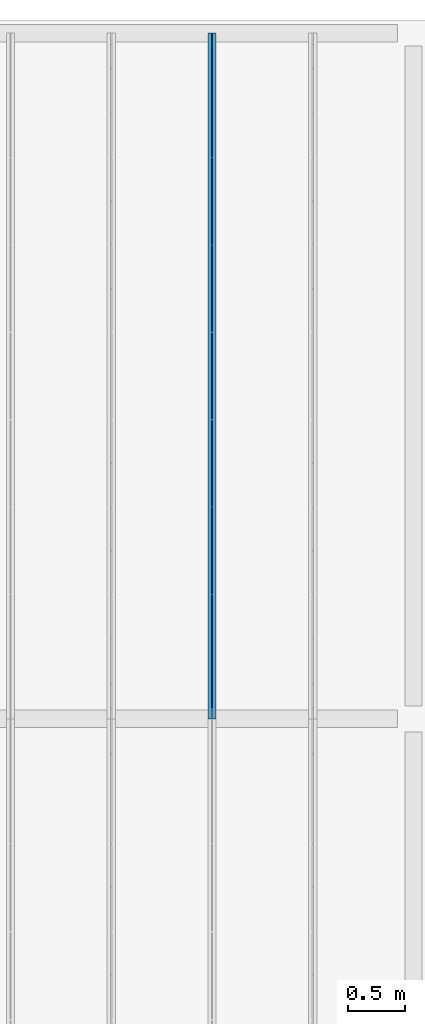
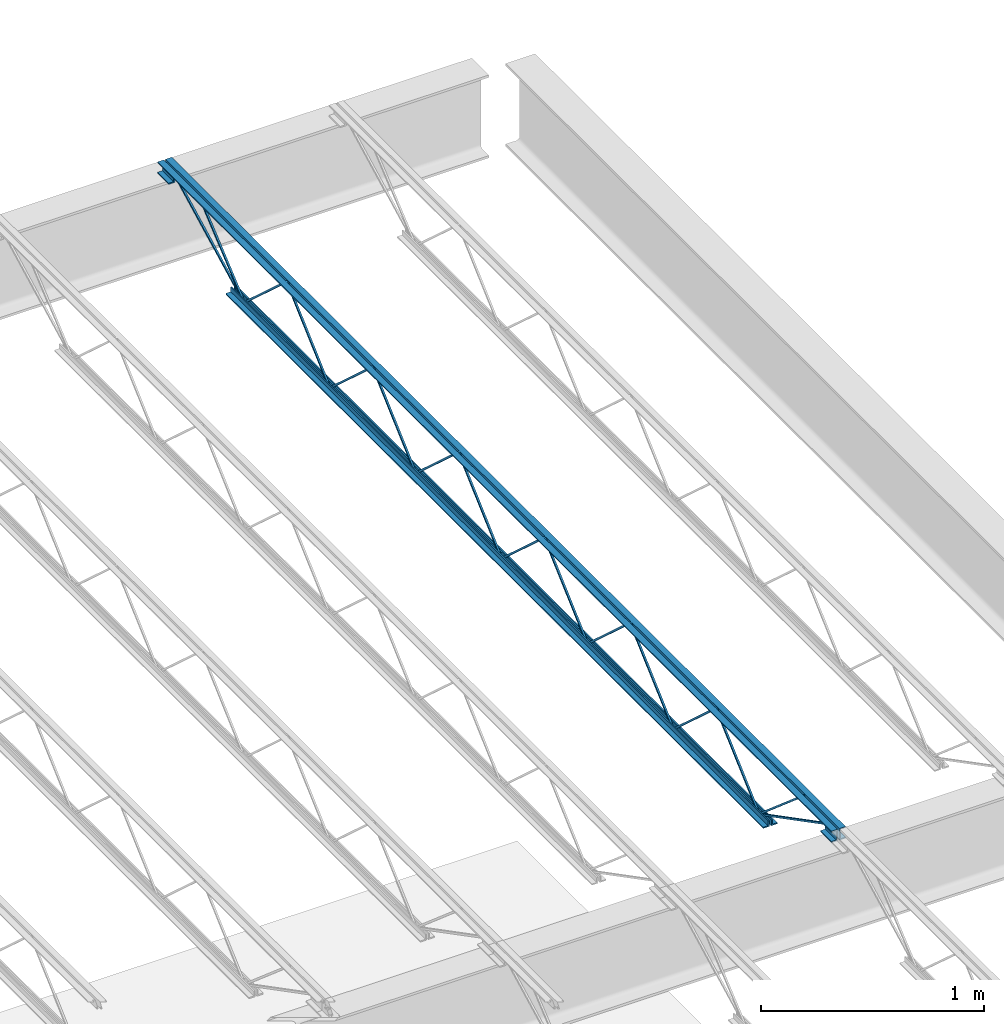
# One storey, part 54 of 75: 1 beam.
"""IFC2X3 building model written with IfcOpenShell, lengths in metres."""

from ifc_helpers import new_model, entity, si_unit, converted_unit, frame, origin, place, context, project, spatial, face_set, surface_model, element, save


model = new_model("IFC2X3")

# Units and contexts
model_context = context("Model", 3, precision=1e-09, world=origin())
plan_context = context("Plan", 3, precision=1e-09, world=origin())
ifc_project = project(units=[si_unit("LENGTHUNIT", "METRE"), si_unit("AREAUNIT", "SQUARE_METRE"), si_unit("VOLUMEUNIT", "CUBIC_METRE"), converted_unit("PLANEANGLEUNIT", "DEGREE", entity("IfcRatioMeasure", 0.01745329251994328), si_unit("PLANEANGLEUNIT", "RADIAN"), dimensions=[0, 0, 0, 0, 0, 0, 0]), si_unit("TIMEUNIT", "SECOND")], contexts=[model_context, plan_context])

# Site, building, storey
site_placement = place(None, origin())
site = spatial("IfcSite", under=ifc_project, at=site_placement, Name="Default", CompositionType="ELEMENT")
building_placement = place(site_placement, origin())
building = spatial("IfcBuilding", under=site, at=building_placement, CompositionType="ELEMENT")
storey_placement = place(building_placement, origin())
storey = spatial("IfcBuildingStorey", under=building, at=storey_placement, Name="First Floor", CompositionType="ELEMENT", Elevation=-3.531500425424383e-13)

# Beam
beam_placement = place(storey_placement, frame((-28.25424999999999, 50.09000000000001, 4.112000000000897), z_axis=(0.0, 0.0, 1.0), x_axis=(-1.0, 0.0, 0.0)))
element("IfcBeam", 1, at=beam_placement, inside=storey, Name="M_K-Series Bar Joist-Rod Web:14K1:14K1", ObjectType="M_K-Series Bar Joist-Rod Web:14K1", context=model_context, shape_type="SurfaceModel", body=[
    surface_model("IfcFaceBasedSurfaceModel", [(-0.03200000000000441, -2.254000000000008, 0.01110000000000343), (-0.04150000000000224, -2.254000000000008, 0.01110000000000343), (-0.04150000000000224, -2.254000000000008, 0.001600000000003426), (-0.03200000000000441, -2.254000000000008, 0.001600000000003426), (-0.04150000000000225, -2.252655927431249, 0.01110000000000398), (-0.03200000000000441, -2.252655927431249, 0.01110000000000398), (-0.04150000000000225, -2.248994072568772, 0.001600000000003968), (-0.04150000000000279, -1.869844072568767, 0.3449000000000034), (-0.0415000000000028, -1.86715592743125, 0.3449000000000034), (-0.04149999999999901, -1.48800592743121, 0.001600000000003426), (-0.04149999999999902, -1.483000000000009, 0.001600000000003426), (-0.04150000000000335, -1.483000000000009, 0.01110000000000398), (-0.04150000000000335, -1.484344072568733, 0.01110000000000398), (-0.04150000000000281, -1.863494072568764, 0.3544000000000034), (-0.04150000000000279, -1.873505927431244, 0.3544000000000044), (-0.03200000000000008, -2.248994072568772, 0.001600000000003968), (-0.03200000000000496, -1.869844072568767, 0.3449000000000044), (-0.03200000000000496, -1.86715592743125, 0.3449000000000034), (-0.0320000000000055, -1.48800592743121, 0.001600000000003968), (-0.03200000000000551, -1.483000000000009, 0.001600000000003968), (-0.03200000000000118, -1.483000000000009, 0.01110000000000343), (-0.03200000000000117, -1.484344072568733, 0.01110000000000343), (-0.03200000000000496, -1.863494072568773, 0.3544000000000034), (-0.03200000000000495, -1.873505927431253, 0.3544000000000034), (-0.0320000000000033, -3.025000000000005, 0.01110000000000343), (-0.04150000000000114, -3.025000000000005, 0.01110000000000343), (-0.04150000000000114, -3.025000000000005, 0.001600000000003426), (-0.0320000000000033, -3.025000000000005, 0.001600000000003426), (-0.04150000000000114, -3.023655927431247, 0.01110000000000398), (-0.0320000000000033, -3.023655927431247, 0.01110000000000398), (-0.04150000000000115, -3.01999407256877, 0.001600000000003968), (-0.04150000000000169, -2.640844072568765, 0.3449000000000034), (-0.04150000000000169, -2.638155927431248, 0.3449000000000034), (-0.04150000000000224, -2.259005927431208, 0.001600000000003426), (-0.04150000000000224, -2.254000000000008, 0.01110000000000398), (-0.04150000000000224, -2.255344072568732, 0.01110000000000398), (-0.0415000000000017, -2.634494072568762, 0.3544000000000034), (-0.04150000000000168, -2.644505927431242, 0.3544000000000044), (-0.03199999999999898, -3.01999407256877, 0.001600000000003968), (-0.03200000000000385, -2.640844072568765, 0.3449000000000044), (-0.03200000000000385, -2.638155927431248, 0.3449000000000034), (-0.03200000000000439, -2.259005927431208, 0.001600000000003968), (-0.03200000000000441, -2.254000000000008, 0.001600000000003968), (-0.0320000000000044, -2.255344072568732, 0.01110000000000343), (-0.03200000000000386, -2.634494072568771, 0.3544000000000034), (-0.03200000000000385, -2.644505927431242, 0.3544000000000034), (-0.03200000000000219, -3.796000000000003, 0.01110000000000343), (-0.04150000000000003, -3.796000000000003, 0.01110000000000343), (-0.04150000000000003, -3.796000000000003, 0.001600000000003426), (-0.03200000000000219, -3.796000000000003, 0.001600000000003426), (-0.04150000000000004, -3.794655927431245, 0.01110000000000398), (-0.03200000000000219, -3.794655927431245, 0.01110000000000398), (-0.04150000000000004, -3.790994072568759, 0.001600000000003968), (-0.04150000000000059, -3.411844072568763, 0.3449000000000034), (-0.04150000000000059, -3.409155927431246, 0.3449000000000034), (-0.04150000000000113, -3.030005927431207, 0.001600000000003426), (-0.04150000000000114, -3.025000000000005, 0.01110000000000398), (-0.04150000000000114, -3.026344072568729, 0.01110000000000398), (-0.0415000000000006, -3.40549407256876, 0.3544000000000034), (-0.04150000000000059, -3.41550592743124, 0.3544000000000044), (-0.03199999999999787, -3.790994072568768, 0.001600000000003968), (-0.03200000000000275, -3.411844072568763, 0.3449000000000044), (-0.03200000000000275, -3.409155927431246, 0.3449000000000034), (-0.03200000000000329, -3.030005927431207, 0.001600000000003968), (-0.0320000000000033, -3.025000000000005, 0.001600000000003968), (-0.0320000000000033, -3.026344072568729, 0.01110000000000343), (-0.03200000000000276, -3.40549407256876, 0.3544000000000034), (-0.03200000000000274, -3.41550592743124, 0.3544000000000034), (-0.03200000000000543, -4.567000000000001, 0.01110000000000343), (-0.04150000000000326, -4.567000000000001, 0.01110000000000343), (-0.04150000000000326, -4.567000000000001, 0.001600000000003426), (-0.03200000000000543, -4.567000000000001, 0.001600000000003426), (-0.04150000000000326, -4.565655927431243, 0.01110000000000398), (-0.03200000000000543, -4.565655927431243, 0.01110000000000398), (-0.04150000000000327, -4.561994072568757, 0.001600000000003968), (-0.04149999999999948, -4.182844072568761, 0.3449000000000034), (-0.04149999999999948, -4.180155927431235, 0.3449000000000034), (-0.04150000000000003, -3.801005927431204, 0.001600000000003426), (-0.04150000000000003, -3.795999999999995, 0.001600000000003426), (-0.04150000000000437, -3.796000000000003, 0.01110000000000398), (-0.04150000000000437, -3.797344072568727, 0.01110000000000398), (-0.04150000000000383, -4.176494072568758, 0.3544000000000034), (-0.04150000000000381, -4.186505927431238, 0.3544000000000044), (-0.0320000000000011, -4.561994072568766, 0.001600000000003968), (-0.03200000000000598, -4.182844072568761, 0.3449000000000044), (-0.03200000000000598, -4.180155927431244, 0.3449000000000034), (-0.03200000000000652, -3.801005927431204, 0.001600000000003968), (-0.03200000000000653, -3.796000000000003, 0.001600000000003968), (-0.03200000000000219, -3.795999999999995, 0.01110000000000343), (-0.03200000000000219, -3.797344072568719, 0.01110000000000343), (-0.03200000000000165, -4.176494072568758, 0.3544000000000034), (-0.03200000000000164, -4.186505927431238, 0.3544000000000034), (-0.03200000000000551, -1.483000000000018, 0.01109999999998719), (-0.04150000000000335, -1.483000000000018, 0.01109999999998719), (-0.04150000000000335, -1.483000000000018, 0.001599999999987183), (-0.03200000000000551, -1.483000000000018, 0.001599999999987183), (-0.04149999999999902, -1.48165592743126, 0.01109999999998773), (-0.03200000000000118, -1.48165592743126, 0.01109999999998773), (-0.04150000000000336, -1.477994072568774, 0.001599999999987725), (-0.0415000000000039, -1.098844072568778, 0.3448999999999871), (-0.0415000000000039, -1.096155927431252, 0.3448999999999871), (-0.04150000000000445, -0.717005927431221, 0.001599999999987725), (-0.04150000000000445, -0.7120000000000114, 0.001599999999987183), (-0.04150000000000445, -0.7120000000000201, 0.01109999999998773), (-0.04150000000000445, -0.713344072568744, 0.01109999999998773), (-0.04150000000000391, -1.092494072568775, 0.3543999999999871), (-0.04150000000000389, -1.102505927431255, 0.3543999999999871), (-0.03200000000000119, -1.477994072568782, 0.001599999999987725), (-0.03200000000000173, -1.098844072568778, 0.3448999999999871), (-0.03200000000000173, -1.09615592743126, 0.3448999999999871), (-0.03200000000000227, -0.717005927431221, 0.001599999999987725), (-0.03200000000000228, -0.7120000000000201, 0.001599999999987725), (-0.03200000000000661, -0.7120000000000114, 0.01109999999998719), (-0.03200000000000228, -0.7133440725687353, 0.01109999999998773), (-0.03200000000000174, -1.092494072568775, 0.3543999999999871), (-0.03200000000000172, -1.102505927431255, 0.3543999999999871), (-0.03200000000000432, -5.33799999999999, 0.01110000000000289), (-0.04150000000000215, -5.33799999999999, 0.01110000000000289), (-0.04150000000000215, -5.33799999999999, 0.001600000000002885), (-0.03200000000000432, -5.33799999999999, 0.001600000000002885), (-0.04150000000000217, -5.336655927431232, 0.01110000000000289), (-0.03200000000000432, -5.336655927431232, 0.01110000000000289), (-0.04150000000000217, -5.332994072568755, 0.001600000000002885), (-0.04150000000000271, -4.95384407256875, 0.3449000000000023), (-0.04150000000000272, -4.951155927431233, 0.3449000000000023), (-0.04150000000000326, -4.572005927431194, 0.001600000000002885), (-0.04150000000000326, -4.566999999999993, 0.001600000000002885), (-0.04150000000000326, -4.566999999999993, 0.01110000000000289), (-0.04150000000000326, -4.568344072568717, 0.01110000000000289), (-0.04150000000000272, -4.947494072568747, 0.3544000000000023), (-0.04150000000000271, -4.957505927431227, 0.3544000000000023), (-0.03199999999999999, -5.332994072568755, 0.001600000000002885), (-0.03200000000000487, -4.95384407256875, 0.3449000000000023), (-0.03200000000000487, -4.951155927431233, 0.3449000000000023), (-0.03200000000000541, -4.572005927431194, 0.001600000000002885), (-0.03200000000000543, -4.566999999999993, 0.001600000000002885), (-0.03200000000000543, -4.566999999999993, 0.01110000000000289), (-0.03200000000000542, -4.568344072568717, 0.01110000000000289), (-0.03200000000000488, -4.947494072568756, 0.3544000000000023), (-0.03200000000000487, -4.957505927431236, 0.3544000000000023), (-0.04150000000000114, 0.0, 0.3559999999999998), (-0.07350000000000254, 0.0, 0.3559999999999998), (-0.07350000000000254, 0.0, 0.349499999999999), (-0.04799999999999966, 0.0, 0.349499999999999), (-0.04799999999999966, 0.0, 0.3239999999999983), (-0.04150000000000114, 0.0, 0.3239999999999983), (-0.0320000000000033, 0.0, 0.3559999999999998), (-0.0320000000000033, 0.0, 0.3239999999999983), (-0.02550000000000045, 0.0, 0.3239999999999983), (-0.02550000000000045, 0.0, 0.349499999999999), (0.0, 0.0, 0.349499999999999), (0.0, 0.0, 0.3559999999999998), (-0.04150000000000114, -6.049999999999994, 0.3559999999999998), (-0.07350000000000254, -6.049999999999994, 0.3559999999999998), (-0.07350000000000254, -6.049999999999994, 0.349499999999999), (-0.04799999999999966, -6.049999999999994, 0.349499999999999), (-0.04799999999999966, -6.049999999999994, 0.3239999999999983), (-0.04150000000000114, -6.049999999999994, 0.3239999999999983), (-0.0320000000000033, -6.049999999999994, 0.3559999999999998), (-0.0320000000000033, -6.049999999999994, 0.3239999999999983), (-0.02550000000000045, -6.049999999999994, 0.3239999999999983), (-0.02550000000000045, -6.049999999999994, 0.349499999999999), (0.0, -6.049999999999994, 0.349499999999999), (0.0, -6.049999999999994, 0.3559999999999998), (-0.03200000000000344, -5.950000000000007, 0.2924999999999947), (0.0, -5.950000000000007, 0.2924999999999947), (0.0, -5.950000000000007, 0.2989999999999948), (-0.02550000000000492, -5.950000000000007, 0.2989999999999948), (-0.02550000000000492, -5.950000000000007, 0.3239999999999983), (-0.03200000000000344, -5.950000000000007, 0.3239999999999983), (-0.07350000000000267, -5.950000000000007, 0.2924999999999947), (-0.04150000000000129, -5.950000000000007, 0.2924999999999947), (-0.04150000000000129, -5.950000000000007, 0.3239999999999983), (-0.04800000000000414, -5.950000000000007, 0.3239999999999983), (-0.04800000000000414, -5.950000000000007, 0.2989999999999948), (-0.07350000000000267, -5.950000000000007, 0.2989999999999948), (-0.0320000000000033, -6.049999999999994, 0.2924999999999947), (0.0, -6.049999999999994, 0.2924999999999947), (0.0, -6.049999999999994, 0.2989999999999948), (-0.02550000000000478, -6.049999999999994, 0.2989999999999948), (-0.02550000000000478, -6.049999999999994, 0.3239999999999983), (-0.07350000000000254, -6.049999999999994, 0.2924999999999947), (-0.04150000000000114, -6.049999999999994, 0.2924999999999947), (-0.048000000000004, -6.049999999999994, 0.3239999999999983), (-0.048000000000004, -6.049999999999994, 0.2989999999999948), (-0.07350000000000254, -6.049999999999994, 0.2989999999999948), (-0.04150000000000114, 0.0, 0.2924999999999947), (-0.048000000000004, 0.0, 0.3239999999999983), (-0.048000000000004, 0.0, 0.2989999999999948), (-0.07350000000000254, 0.0, 0.2989999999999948), (-0.07350000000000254, 0.0, 0.2924999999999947), (-0.0320000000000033, 0.0, 0.2924999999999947), (0.0, 0.0, 0.2924999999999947), (0.0, 0.0, 0.2989999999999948), (-0.02550000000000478, 0.0, 0.2989999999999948), (-0.02550000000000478, 0.0, 0.3239999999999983), (-0.04150000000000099, -0.0999999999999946, 0.2924999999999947), (-0.04150000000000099, -0.0999999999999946, 0.3239999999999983), (-0.04800000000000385, -0.0999999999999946, 0.3239999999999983), (-0.04800000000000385, -0.0999999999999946, 0.2989999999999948), (-0.07350000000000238, -0.0999999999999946, 0.2989999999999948), (-0.07350000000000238, -0.0999999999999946, 0.2924999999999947), (-0.03200000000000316, -0.0999999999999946, 0.2924999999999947), (0.0, -0.0999999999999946, 0.2924999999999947), (0.0, -0.0999999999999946, 0.2989999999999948), (-0.02550000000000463, -0.0999999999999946, 0.2989999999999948), (-0.02550000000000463, -0.0999999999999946, 0.3239999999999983), (-0.03200000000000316, -0.0999999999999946, 0.3239999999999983), (-0.04150000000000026, -0.6119999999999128, 0.0), (-0.04150000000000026, -0.6119999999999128, 0.03199999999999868), (-0.04799999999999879, -0.6119999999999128, 0.03199999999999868), (-0.04799999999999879, -0.6119999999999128, 0.006499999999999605), (-0.07350000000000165, -0.6119999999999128, 0.006499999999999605), (-0.07350000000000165, -0.6119999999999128, 0.0), (-0.03200000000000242, -0.6119999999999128, 0.0), (0.0, -0.6119999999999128, 0.0), (0.0, -0.6119999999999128, 0.006499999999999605), (-0.02549999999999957, -0.6119999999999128, 0.006499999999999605), (-0.02549999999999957, -0.6119999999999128, 0.03199999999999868), (-0.03200000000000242, -0.6119999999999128, 0.03199999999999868), (-0.04150000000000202, -5.437999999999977, 0.0), (-0.04150000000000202, -5.437999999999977, 0.03199999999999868), (-0.04800000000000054, -5.437999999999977, 0.03199999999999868), (-0.04800000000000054, -5.437999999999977, 0.006499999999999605), (-0.07350000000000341, -5.437999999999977, 0.006499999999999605), (-0.07350000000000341, -5.437999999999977, 0.0), (-0.03200000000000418, -5.437999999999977, 0.0), (0.0, -5.437999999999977, 0.0), (0.0, -5.437999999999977, 0.006499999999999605), (-0.02550000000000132, -5.437999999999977, 0.006499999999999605), (-0.02550000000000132, -5.437999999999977, 0.03199999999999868), (-0.03200000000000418, -5.437999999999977, 0.03199999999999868), (-0.03200000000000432, -5.335811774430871, 0.01056594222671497), (-0.04150000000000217, -5.335811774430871, 0.01056594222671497), (-0.04150000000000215, -5.34018822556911, 0.002134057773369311), (-0.03200000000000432, -5.34018822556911, 0.002134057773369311), (-0.03200000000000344, -5.948840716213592, 0.3287499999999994), (-0.0320000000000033, -6.049999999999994, 0.3287499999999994), (-0.0320000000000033, -6.049999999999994, 0.3192499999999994), (-0.03200000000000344, -5.951159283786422, 0.3192499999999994), (-0.04150000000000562, -5.951159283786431, 0.3192499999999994), (-0.04150000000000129, -5.948840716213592, 0.3287499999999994), (-0.04150000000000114, -6.049999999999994, 0.3287499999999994), (-0.04150000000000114, -6.049999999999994, 0.3192499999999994), (-0.03200000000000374, -5.743457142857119, 0.341700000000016), (-0.04150000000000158, -5.743457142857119, 0.341700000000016), (-0.04150000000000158, -5.743457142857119, 0.332200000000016), (-0.03200000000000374, -5.743457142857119, 0.332200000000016), (-0.0415000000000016, -5.729024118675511, 0.341700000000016), (-0.03200000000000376, -5.729024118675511, 0.341700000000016), (-0.0415000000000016, -5.732490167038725, 0.332200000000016), (-0.04150000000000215, -5.341058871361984, 0.002716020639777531), (-0.04150000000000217, -5.334941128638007, 0.009983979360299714), (-0.03199999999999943, -5.732490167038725, 0.332200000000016), (-0.03200000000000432, -5.341058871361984, 0.002716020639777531), (-0.03200000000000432, -5.334941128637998, 0.009983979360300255), (-0.03200000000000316, -0.09781177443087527, 0.3197840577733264), (-0.03200000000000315, -0.1021882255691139, 0.3282159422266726), (-0.04150000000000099, -0.1021882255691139, 0.3282159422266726), (-0.04150000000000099, -0.09781177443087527, 0.3197840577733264), (-0.03200000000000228, -0.7098117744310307, 0.002134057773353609), (-0.03200000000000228, -0.7141882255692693, 0.01056594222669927), (-0.04150000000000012, -0.7141882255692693, 0.01056594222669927), (-0.04150000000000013, -0.7098117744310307, 0.002134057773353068), (-0.03200000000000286, -0.3088922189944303, 0.3460454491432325), (-0.03200000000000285, -0.3150792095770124, 0.3532545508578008), (-0.04150000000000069, -0.3150792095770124, 0.3532545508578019), (-0.0415000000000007, -0.3088922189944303, 0.3460454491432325), (-0.03200000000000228, -0.7089065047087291, 0.002745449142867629), (-0.03200000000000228, -0.715093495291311, 0.009954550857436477), (-0.04150000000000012, -0.715093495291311, 0.009954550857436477), (-0.04150000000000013, -0.7089065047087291, 0.002745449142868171)], [face_set([[[0, 1, 2, 3]], [[1, 4, 5, 0]], [[2, 6, 7, 8, 9, 10, 11, 12, 13, 14, 4, 1]], [[3, 2, 6, 15]], [[0, 3, 15, 16, 17, 18, 19, 20, 21, 22, 23, 5]], [[4, 5, 23, 14]], [[15, 16, 7, 6]], [[14, 13, 22, 23]], [[16, 7, 8, 17]], [[13, 12, 21, 22]], [[17, 8, 9, 18]], [[20, 11, 10, 19]], [[12, 11, 20, 21]], [[18, 9, 10, 19]]]), face_set([[[24, 25, 26, 27]], [[25, 28, 29, 24]], [[26, 30, 31, 32, 33, 2, 34, 35, 36, 37, 28, 25]], [[27, 26, 30, 38]], [[24, 27, 38, 39, 40, 41, 42, 0, 43, 44, 45, 29]], [[28, 29, 45, 37]], [[38, 39, 31, 30]], [[37, 36, 44, 45]], [[39, 31, 32, 40]], [[36, 35, 43, 44]], [[40, 32, 33, 41]], [[0, 34, 2, 42]], [[35, 34, 0, 43]], [[41, 33, 2, 42]]]), face_set([[[46, 47, 48, 49]], [[47, 50, 51, 46]], [[48, 52, 53, 54, 55, 26, 56, 57, 58, 59, 50, 47]], [[49, 48, 52, 60]], [[46, 49, 60, 61, 62, 63, 64, 24, 65, 66, 67, 51]], [[50, 51, 67, 59]], [[60, 61, 53, 52]], [[59, 58, 66, 67]], [[61, 53, 54, 62]], [[58, 57, 65, 66]], [[62, 54, 55, 63]], [[24, 56, 26, 64]], [[57, 56, 24, 65]], [[63, 55, 26, 64]]]), face_set([[[68, 69, 70, 71]], [[69, 72, 73, 68]], [[70, 74, 75, 76, 77, 78, 79, 80, 81, 82, 72, 69]], [[71, 70, 74, 83]], [[68, 71, 83, 84, 85, 86, 87, 88, 89, 90, 91, 73]], [[72, 73, 91, 82]], [[83, 84, 75, 74]], [[82, 81, 90, 91]], [[84, 75, 76, 85]], [[81, 80, 89, 90]], [[85, 76, 77, 86]], [[88, 79, 78, 87]], [[80, 79, 88, 89]], [[86, 77, 78, 87]]]), face_set([[[92, 93, 94, 95]], [[93, 96, 97, 92]], [[94, 98, 99, 100, 101, 102, 103, 104, 105, 106, 96, 93]], [[95, 94, 98, 107]], [[92, 95, 107, 108, 109, 110, 111, 112, 113, 114, 115, 97]], [[96, 97, 115, 106]], [[107, 108, 99, 98]], [[106, 105, 114, 115]], [[108, 99, 100, 109]], [[105, 104, 113, 114]], [[109, 100, 101, 110]], [[112, 103, 102, 111]], [[104, 103, 112, 113]], [[110, 101, 102, 111]]]), face_set([[[116, 117, 118, 119]], [[117, 120, 121, 116]], [[118, 122, 123, 124, 125, 126, 127, 128, 129, 130, 120, 117]], [[119, 118, 122, 131]], [[116, 119, 131, 132, 133, 134, 135, 136, 137, 138, 139, 121]], [[120, 121, 139, 130]], [[131, 132, 123, 122]], [[130, 129, 138, 139]], [[132, 123, 124, 133]], [[129, 128, 137, 138]], [[133, 124, 125, 134]], [[136, 127, 126, 135]], [[128, 127, 136, 137]], [[134, 125, 126, 135]]]), face_set([[[140, 141, 142, 143, 144, 145]], [[146, 147, 148, 149, 150, 151]], [[152, 153, 154, 155, 156, 157]], [[158, 159, 160, 161, 162, 163]], [[145, 140, 152, 157]], [[144, 145, 157, 156]], [[143, 155, 156, 144]], [[142, 143, 155, 154]], [[141, 153, 154, 142]], [[140, 152, 153, 141]], [[151, 163, 158, 146]], [[150, 151, 163, 162]], [[149, 150, 162, 161]], [[148, 149, 161, 160]], [[147, 148, 160, 159]], [[146, 158, 159, 147]]]), face_set([[[164, 165, 166, 167, 168, 169]], [[170, 171, 172, 173, 174, 175]], [[176, 177, 178, 179, 180, 159]], [[181, 182, 157, 183, 184, 185]], [[169, 159, 176, 164]], [[168, 180, 159, 169]], [[167, 168, 180, 179]], [[166, 178, 179, 167]], [[165, 166, 178, 177]], [[164, 165, 177, 176]], [[175, 185, 181, 170]], [[174, 184, 185, 175]], [[173, 183, 184, 174]], [[172, 157, 183, 173]], [[171, 172, 157, 182]], [[170, 171, 182, 181]]]), face_set([[[186, 145, 187, 188, 189, 190]], [[191, 192, 193, 194, 195, 147]], [[196, 197, 198, 199, 200, 201]], [[202, 203, 204, 205, 206, 207]], [[190, 186, 196, 201]], [[189, 200, 201, 190]], [[188, 199, 200, 189]], [[187, 198, 199, 188]], [[145, 197, 198, 187]], [[186, 145, 197, 196]], [[147, 207, 202, 191]], [[195, 206, 207, 147]], [[194, 195, 206, 205]], [[193, 204, 205, 194]], [[192, 193, 204, 203]], [[191, 192, 203, 202]]]), face_set([[[208, 209, 210, 211, 212, 213]], [[214, 215, 216, 217, 218, 219]], [[220, 221, 222, 223, 224, 225]], [[226, 227, 228, 229, 230, 231]], [[213, 208, 220, 225]], [[212, 224, 225, 213]], [[211, 223, 224, 212]], [[210, 222, 223, 211]], [[209, 221, 222, 210]], [[208, 209, 221, 220]], [[219, 231, 226, 214]], [[218, 230, 231, 219]], [[217, 218, 230, 229]], [[216, 228, 229, 217]], [[215, 216, 228, 227]], [[214, 215, 227, 226]]]), face_set([[[232, 233, 234, 235]], [[235, 232, 236, 237, 238, 239]], [[234, 235, 239, 240]], [[233, 241, 242, 243, 240, 234]], [[232, 236, 241, 233]], [[237, 242, 243, 238]], [[240, 239, 238, 243]], [[236, 237, 242, 241]]]), face_set([[[244, 245, 246, 247]], [[245, 248, 249, 244]], [[246, 250, 251, 252, 248, 245]], [[247, 246, 250, 253]], [[244, 247, 253, 254, 255, 249]], [[255, 252, 251, 254]], [[248, 252, 255, 249]], [[253, 250, 251, 254]]]), face_set([[[256, 257, 258, 259]], [[260, 261, 262, 263]], [[259, 263, 260, 256]], [[258, 262, 263, 259]], [[257, 258, 262, 261]], [[256, 257, 261, 260]]]), face_set([[[264, 265, 266, 267]], [[268, 269, 270, 271]], [[267, 271, 268, 264]], [[266, 270, 271, 267]], [[265, 266, 270, 269]], [[264, 265, 269, 268]]])]),
])

save(model, "model.ifc")
